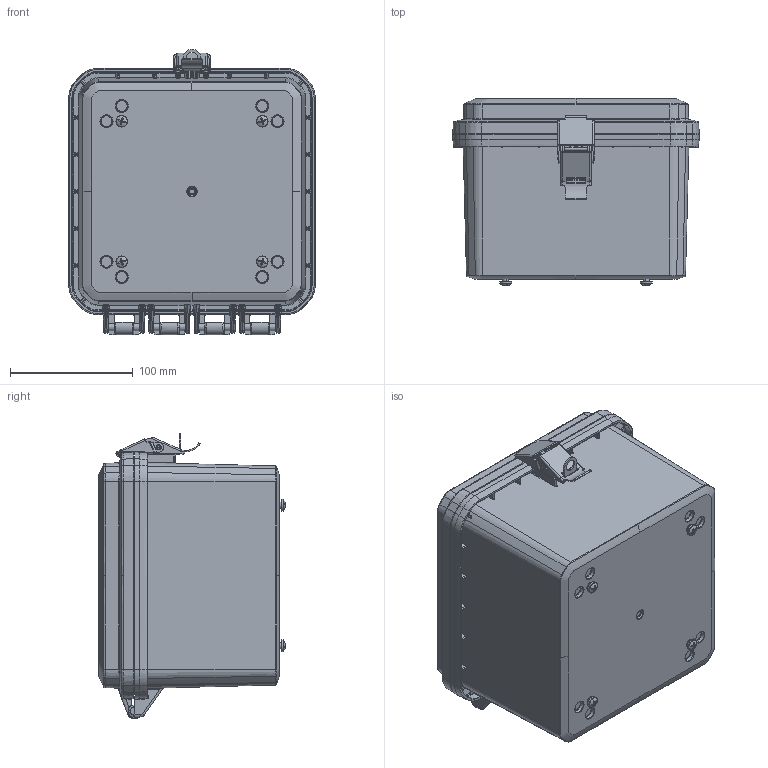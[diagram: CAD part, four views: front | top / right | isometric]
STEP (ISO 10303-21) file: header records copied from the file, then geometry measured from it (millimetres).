
FILE_DESCRIPTION (( 'STEP AP214' ), '1' );
FILE_NAME ('HP-070705-13.STEP', '2025-02-12T11:37:18', ( '' ), ( '' ), 'SwSTEP 2.0', 'SolidWorks 2024', '' );
FILE_SCHEMA (( 'AUTOMOTIVE_DESIGN' ));
Length unit declared in the file: inch
Products named in the file (15): HP-0707G; ZH-01L2; SCREWS-049_SCREWS-049; LABEL-105; ZH-01L4; HP-07071C_HP-07071C-00; ZH-01L; ZH-01L5; HP-0707xBI_HP-07074BI-00; ZH-01L1; INSERTS-4; HP-07071CG_HP-07071CG-00; HP-0707xB_HP-07074B-00; ZH-01L3; HP-070705-13
Assembly tree (20 placements, depth 3):
  HP-070705-13
    HP-0707xBI_HP-07074BI-00
      HP-0707xB_HP-07074B-00
      LABEL-105
      INSERTS-4  x4
    HP-07071CG_HP-07071CG-00
      HP-07071C_HP-07071C-00
      HP-0707G
    ZH-01L
      ZH-01L1
      ZH-01L2
      ZH-01L3
      ZH-01L4
      ZH-01L5
    SCREWS-049_SCREWS-049  x4
Bounding box: 200.41 x 151.97 x 232.37 mm (x, y, z)
Volume: 671993 mm3; surface area: 433093.5 mm2
Topology: 17 solids, 17 shells, 4565 faces, 10890 edges, 6308 vertices
Faces by surface type: bspline 1567, cylinder 1077, plane 963, torus 494, cone 296, sphere 168
Entity records: 177945 total; most frequent: CARTESIAN_POINT 92880, ORIENTED_EDGE 19954, DIRECTION 15235, EDGE_CURVE 9977, AXIS2_PLACEMENT_3D 6256, VERTEX_POINT 5765, EDGE_LOOP 4318, FACE_OUTER_BOUND 4256
